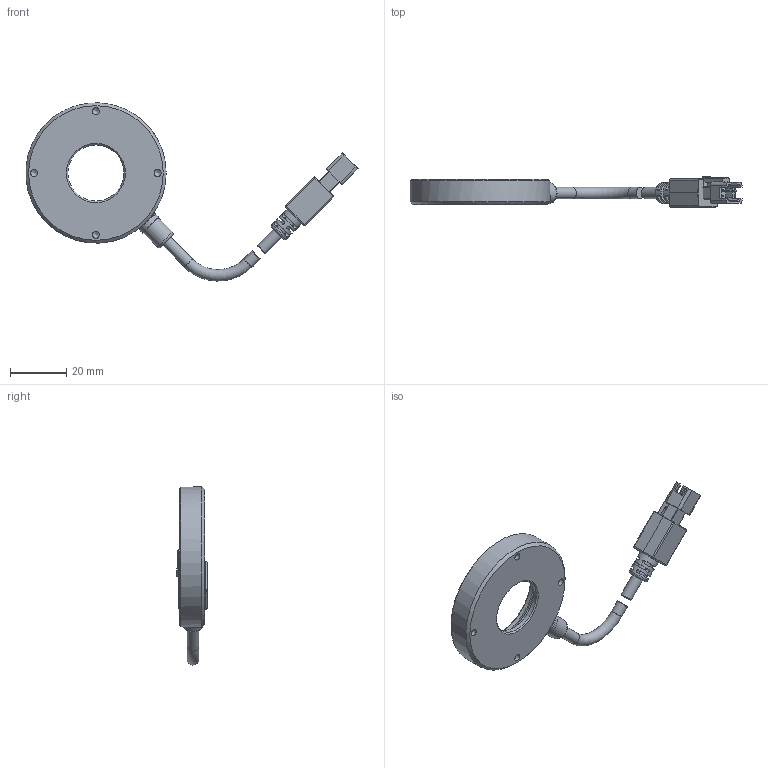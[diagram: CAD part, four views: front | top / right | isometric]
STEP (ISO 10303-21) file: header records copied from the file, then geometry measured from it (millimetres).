
FILE_DESCRIPTION (( 'STEP AP203' ), '1' );
FILE_NAME ('OPT-RI5090-X-V4.1尨砩芞.STEP', '2024-12-12T06:59:32', ( '' ), ( '' ), 'SwSTEP 2.0', 'SolidWorks 2016', '' );
FILE_SCHEMA (( 'CONFIG_CONTROL_DESIGN' ));
Length unit declared in the file: millimetre
Products named in the file (1): OPT-RI5090-X-V4.1尨砩芞
Bounding box: 118.32 x 10.7 x 63.5 mm (x, y, z)
Volume: 14777.6 mm3; surface area: 10101.1 mm2
Topology: 7 solids, 7 shells, 349 faces, 874 edges, 550 vertices
Faces by surface type: plane 182, cylinder 115, cone 24, bspline 20, torus 8
Full cylindrical faces by diameter (mm): 1.6 x4, 2 x4, 2.4 x4, 2.5 x4, 3.5 x1, 4.1 x4, 5.8 x1, 7.5 x2, 8 x1, 20 x1, 30.4 x1, 32.217 x1, 50 x1
Entity records: 10642 total; most frequent: CARTESIAN_POINT 2646, DIRECTION 1620, ORIENTED_EDGE 1586, EDGE_CURVE 793, AXIS2_PLACEMENT_3D 561, VERTEX_POINT 533, VECTOR 498, LINE 498
